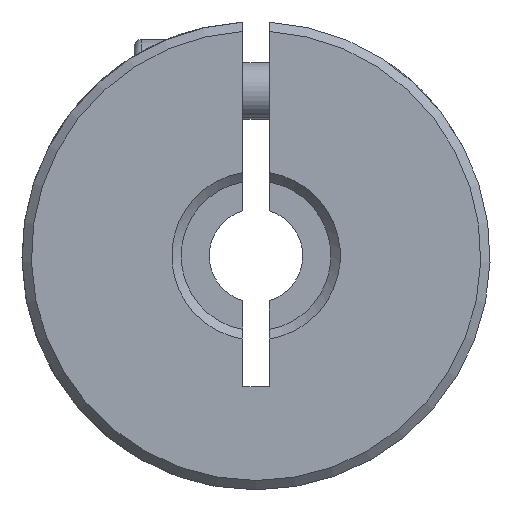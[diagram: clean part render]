
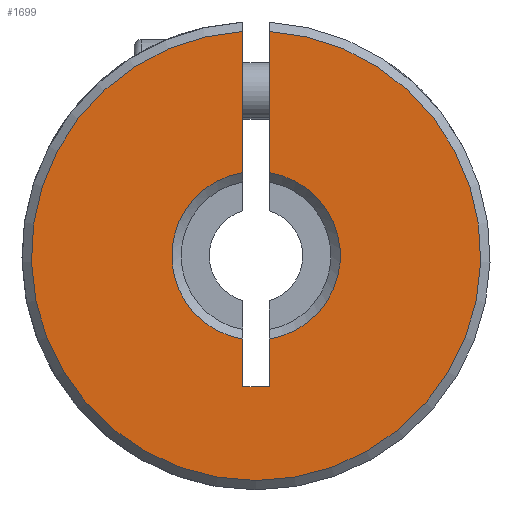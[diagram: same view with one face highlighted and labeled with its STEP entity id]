
A CAD part, front view. The second image highlights one B-rep face of the part: STEP entity #1699.
In plain terms, the highlighted planar face has unit normal (0, -1, 0).
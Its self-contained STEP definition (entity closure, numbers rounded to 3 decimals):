
#61 = LINE ( 'NONE', #4957, #4906 ) ;
#73 = CIRCLE ( 'NONE', #601, 12. ) ;
#129 = ORIENTED_EDGE ( 'NONE', *, *, #327, .T. ) ;
#208 = LINE ( 'NONE', #3567, #3352 ) ;
#277 = EDGE_CURVE ( 'NONE', #3005, #1884, #208, .T. ) ;
#295 = CARTESIAN_POINT ( 'NONE',  ( -0.7, 0.25, -7. ) ) ;
#327 = EDGE_CURVE ( 'NONE', #4949, #5198, #5373, .T. ) ;
#361 = CARTESIAN_POINT ( 'NONE',  ( 12.5, 0.25, -50. ) ) ;
#388 = DIRECTION ( 'NONE',  ( 0., 1., 0. ) ) ;
#415 = EDGE_LOOP ( 'NONE', ( #3652, #129, #3812, #3252, #5054, #4935, #4282, #1590 ) ) ;
#416 = DIRECTION ( 'NONE',  ( 0., 1., 0. ) ) ;
#478 = VERTEX_POINT ( 'NONE', #2566 ) ;
#538 = DIRECTION ( 'NONE',  ( 0., 0., 1. ) ) ;
#601 = AXIS2_PLACEMENT_3D ( 'NONE', #5057, #1718, #2605 ) ;
#618 = VECTOR ( 'NONE', #774, 1000. ) ;
#774 = DIRECTION ( 'NONE',  ( 0., 0., 1. ) ) ;
#1010 = CARTESIAN_POINT ( 'NONE',  ( -0.7, 0.25, 11.98 ) ) ;
#1078 = EDGE_CURVE ( 'NONE', #3703, #1723, #1800, .T. ) ;
#1325 = LINE ( 'NONE', #2594, #2202 ) ;
#1344 = EDGE_CURVE ( 'NONE', #4389, #3703, #61, .T. ) ;
#1590 = ORIENTED_EDGE ( 'NONE', *, *, #2328, .T. ) ;
#1640 = CARTESIAN_POINT ( 'NONE',  ( 0., 0.25, 0. ) ) ;
#1699 = ADVANCED_FACE ( 'NONE', ( #4574 ), #3304, .F. ) ;
#1718 = DIRECTION ( 'NONE',  ( 0., -1., 0. ) ) ;
#1723 = VERTEX_POINT ( 'NONE', #4160 ) ;
#1734 = DIRECTION ( 'NONE',  ( 0., 0., -1. ) ) ;
#1800 = LINE ( 'NONE', #5195, #4113 ) ;
#1839 = CARTESIAN_POINT ( 'NONE',  ( -0.7, 0.25, 4.445 ) ) ;
#1849 = AXIS2_PLACEMENT_3D ( 'NONE', #1640, #4607, #3308 ) ;
#1884 = VERTEX_POINT ( 'NONE', #1839 ) ;
#2046 = CARTESIAN_POINT ( 'NONE',  ( 0.7, 0.25, -7. ) ) ;
#2202 = VECTOR ( 'NONE', #538, 1000. ) ;
#2216 = CARTESIAN_POINT ( 'NONE',  ( 0.7, 0.25, -4.445 ) ) ;
#2328 = EDGE_CURVE ( 'NONE', #3005, #478, #73, .T. ) ;
#2409 = AXIS2_PLACEMENT_3D ( 'NONE', #4931, #416, #3367 ) ;
#2566 = CARTESIAN_POINT ( 'NONE',  ( 0.7, 0.25, 11.98 ) ) ;
#2594 = CARTESIAN_POINT ( 'NONE',  ( 0.7, 0.25, -7. ) ) ;
#2605 = DIRECTION ( 'NONE',  ( 0., 0., 1. ) ) ;
#2780 = DIRECTION ( 'NONE',  ( 0., 0., -1. ) ) ;
#3005 = VERTEX_POINT ( 'NONE', #1010 ) ;
#3073 = CIRCLE ( 'NONE', #1849, 4.5 ) ;
#3252 = ORIENTED_EDGE ( 'NONE', *, *, #1078, .F. ) ;
#3304 = PLANE ( 'NONE',  #4304 ) ;
#3308 = DIRECTION ( 'NONE',  ( 0., 0., 1. ) ) ;
#3352 = VECTOR ( 'NONE', #2780, 1000. ) ;
#3367 = DIRECTION ( 'NONE',  ( 0., 0., 1. ) ) ;
#3567 = CARTESIAN_POINT ( 'NONE',  ( -0.7, 0.25, -7. ) ) ;
#3652 = ORIENTED_EDGE ( 'NONE', *, *, #5179, .F. ) ;
#3697 = CARTESIAN_POINT ( 'NONE',  ( 0.7, 0.25, 4.445 ) ) ;
#3703 = VERTEX_POINT ( 'NONE', #295 ) ;
#3812 = ORIENTED_EDGE ( 'NONE', *, *, #4954, .F. ) ;
#4113 = VECTOR ( 'NONE', #5113, 1000. ) ;
#4132 = EDGE_CURVE ( 'NONE', #4389, #1884, #3073, .T. ) ;
#4160 = CARTESIAN_POINT ( 'NONE',  ( 0.7, 0.25, -7. ) ) ;
#4282 = ORIENTED_EDGE ( 'NONE', *, *, #277, .F. ) ;
#4304 = AXIS2_PLACEMENT_3D ( 'NONE', #361, #388, #5401 ) ;
#4384 = CARTESIAN_POINT ( 'NONE',  ( -0.7, 0.25, -4.445 ) ) ;
#4389 = VERTEX_POINT ( 'NONE', #4384 ) ;
#4523 = LINE ( 'NONE', #2046, #618 ) ;
#4574 = FACE_OUTER_BOUND ( 'NONE', #415, .T. ) ;
#4607 = DIRECTION ( 'NONE',  ( 0., 1., 0. ) ) ;
#4906 = VECTOR ( 'NONE', #1734, 1000. ) ;
#4931 = CARTESIAN_POINT ( 'NONE',  ( 0., 0.25, 0. ) ) ;
#4935 = ORIENTED_EDGE ( 'NONE', *, *, #4132, .T. ) ;
#4949 = VERTEX_POINT ( 'NONE', #3697 ) ;
#4954 = EDGE_CURVE ( 'NONE', #1723, #5198, #4523, .T. ) ;
#4957 = CARTESIAN_POINT ( 'NONE',  ( -0.7, 0.25, -7. ) ) ;
#5054 = ORIENTED_EDGE ( 'NONE', *, *, #1344, .F. ) ;
#5057 = CARTESIAN_POINT ( 'NONE',  ( 0., 0.25, 0. ) ) ;
#5113 = DIRECTION ( 'NONE',  ( 1., 0., 0. ) ) ;
#5179 = EDGE_CURVE ( 'NONE', #4949, #478, #1325, .T. ) ;
#5195 = CARTESIAN_POINT ( 'NONE',  ( 0.7, 0.25, -7. ) ) ;
#5198 = VERTEX_POINT ( 'NONE', #2216 ) ;
#5373 = CIRCLE ( 'NONE', #2409, 4.5 ) ;
#5401 = DIRECTION ( 'NONE',  ( 0., 0., 1. ) ) ;
